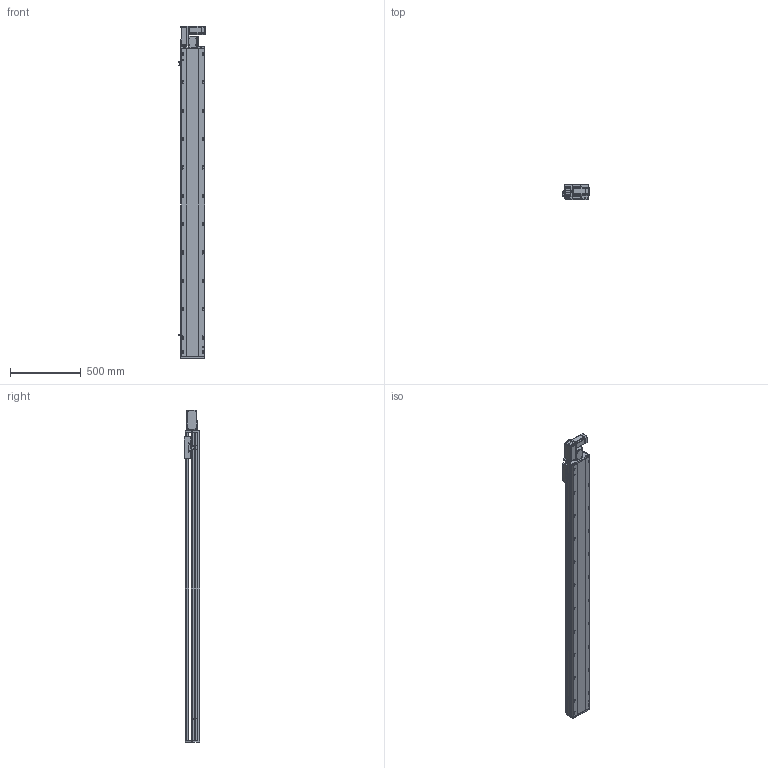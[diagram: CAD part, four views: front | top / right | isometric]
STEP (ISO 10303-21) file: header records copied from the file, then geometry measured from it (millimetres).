
FILE_DESCRIPTION (( 'STEP AP214' ), '1' );
FILE_NAME ('RTB17S-XX-1900-L-M40-C4.STEP', '2025-12-11T05:49:42', ( '' ), ( '' ), 'SwSTEP 2.0', 'SolidWorks 2018', '' );
FILE_SCHEMA (( 'AUTOMOTIVE_DESIGN' ));
Length unit declared in the file: millimetre
Products named in the file (14): RTB17S-L-皮带座装配-400W^RTB17S-XX-XX-L-M40-C4（方程式）; RTB17S-L-007上盖^RTB17S-XX-XX-L-M40-C4（方程式）; RTB14-L-018P^RTB17S-L-皮带座装配-400W_RTB17S-XX-XX-L-M40-C4（方程式）; RTB17S-L-001侧面板^RTB17S-XX-XX-L-M40-C4（方程式）; 400W伺服电机^RTB17S-XX-XX-L-M40-C4（方程式）; OMRON EE-SX672 传感器^RTB17S-XX-XX-L-M40-C4（方程式）; RTB14-L-008-M20--电机板^RTB17S-L-皮带座装配-400W_RTB17S-XX-XX-L-M40-C4（方程式）; RTB14-L-017P^RTB17S-L-皮带座装配-400W_RTB17S-XX-XX-L-M40-C4（方程式）; RMP17S-L-014-T20--皮带座^RTB17S-L-皮带座装配-400W_RTB17S-XX-XX-L-M40-C4（方程式）; RTH13-BL-012感应片外置^RTB17S-XX-XX-L-M40-C4（方程式）; RTB17S-L-004丝杆螺母连接座^RTB17S-XX-XX-L-M40-C4（方程式）; RTB17-R-011底座^RTB17S-XX-XX-L-M40-C4（方程式）; RTB14-L-005P--轴承塑胶压盖^RTB17S-L-皮带座装配-400W_RTB17S-XX-XX-L-M40-C4（方程式）; RTB17S-XX-1900-L-M40-C4
Assembly tree (16 placements, depth 3):
  RTB17S-XX-1900-L-M40-C4
    RTB17-R-011底座^RTB17S-XX-XX-L-M40-C4（方程式）
    RTB17S-L-007上盖^RTB17S-XX-XX-L-M40-C4（方程式）
    OMRON EE-SX672 传感器^RTB17S-XX-XX-L-M40-C4（方程式）  x3
    RTB17S-L-001侧面板^RTB17S-XX-XX-L-M40-C4（方程式）
    400W伺服电机^RTB17S-XX-XX-L-M40-C4（方程式）
    RTB17S-L-004丝杆螺母连接座^RTB17S-XX-XX-L-M40-C4（方程式）
    RTH13-BL-012感应片外置^RTB17S-XX-XX-L-M40-C4（方程式）
    RTB17S-L-皮带座装配-400W^RTB17S-XX-XX-L-M40-C4（方程式）
      RMP17S-L-014-T20--皮带座^RTB17S-L-皮带座装配-400W_RTB17S-XX-XX-L-M40-C4（方程式）
      RTB14-L-005P--轴承塑胶压盖^RTB17S-L-皮带座装配-400W_RTB17S-XX-XX-L-M40-C4（方程式）
      RTB14-L-008-M20--电机板^RTB17S-L-皮带座装配-400W_RTB17S-XX-XX-L-M40-C4（方程式）
      RTB14-L-017P^RTB17S-L-皮带座装配-400W_RTB17S-XX-XX-L-M40-C4（方程式）  x2
      RTB14-L-018P^RTB17S-L-皮带座装配-400W_RTB17S-XX-XX-L-M40-C4（方程式）
Bounding box: 186 x 108 x 2341 mm (x, y, z)
Volume: 19711159.2 mm3; surface area: 2299326.4 mm2
Topology: 15 solids, 15 shells, 2285 faces, 6357 edges, 4149 vertices
Faces by surface type: plane 1078, cylinder 759, bspline 301, cone 139, torus 8
Entity records: 66473 total; most frequent: CARTESIAN_POINT 18762, ORIENTED_EDGE 9558, DIRECTION 8846, EDGE_CURVE 4779, VERTEX_POINT 3137, AXIS2_PLACEMENT_3D 3067, LINE 2712, VECTOR 2712
